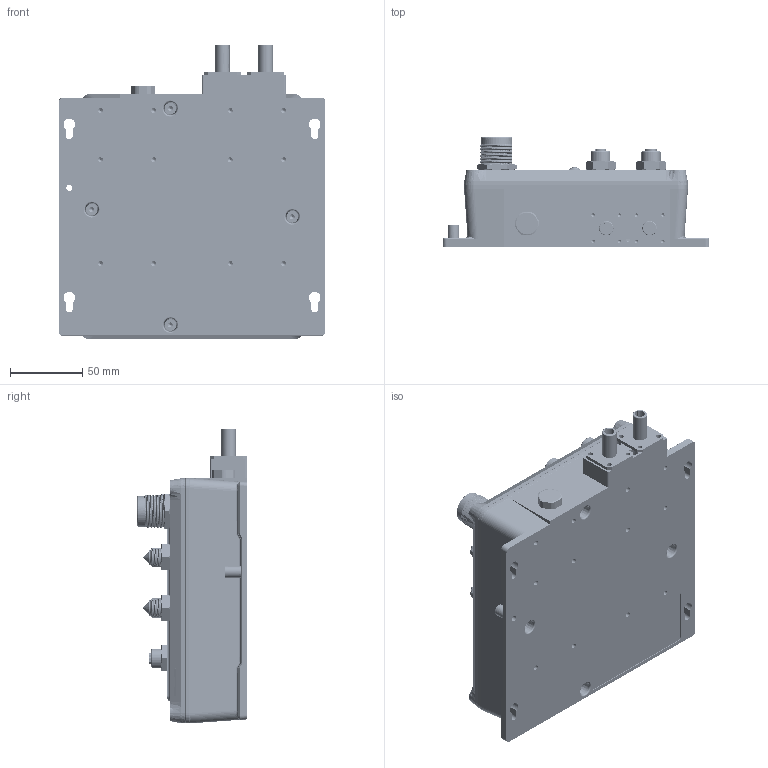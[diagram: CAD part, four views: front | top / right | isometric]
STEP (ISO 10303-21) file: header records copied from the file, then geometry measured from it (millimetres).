
FILE_DESCRIPTION((''),'2;1');
FILE_NAME('3D_TN-5510A-2GLSX-ODC','2014-10-18T',('Vincent_Huang'),(''),'PRO/ENGINEER BY PARAMETRIC TECHNOLOGY CORPORATION, 2004320','PRO/ENGINEER BY PARAMETRIC TECHNOLOGY CORPORATION, 2004320','');
FILE_SCHEMA(('CONFIG_CONTROL_DESIGN'));
Products named in the file (1): 3D_TN-5510A-2GLSX-ODC
Bounding box: 185 x 76 x 204.3 mm (x, y, z)
Surface area: 514359.9 mm2 (no closed solid volume)
Topology: 0 solids, 346 shells, 12432 faces, 32970 edges, 21501 vertices
Faces by surface type: plane 7137, cylinder 3132, cone 888, bspline 768, torus 325, sphere 182
Entity records: 454800 total; most frequent: CARTESIAN_POINT 150516, ORIENTED_EDGE 65158, DIRECTION 58993, EDGE_CURVE 32701, VERTEX_POINT 21499, VECTOR 20565, LINE 20565, AXIS2_PLACEMENT_3D 19214
